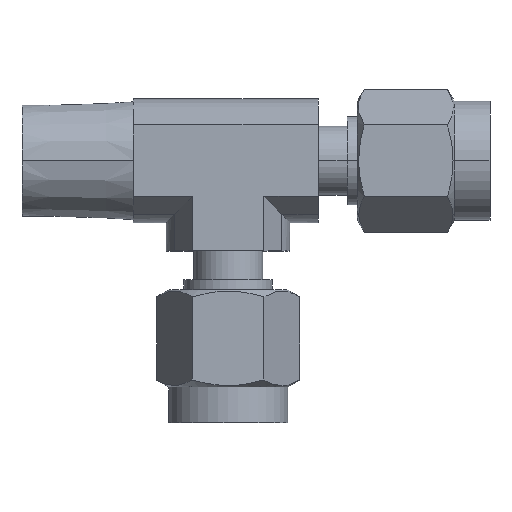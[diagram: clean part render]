
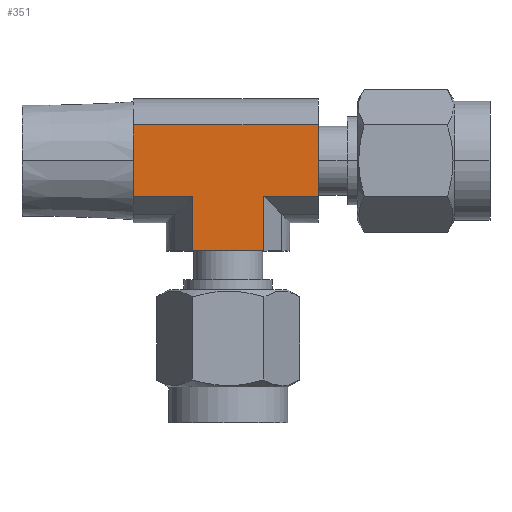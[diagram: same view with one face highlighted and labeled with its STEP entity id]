
A CAD part, top view. The second image highlights one B-rep face of the part: STEP entity #351.
In plain terms, the highlighted planar face has unit normal (0, 0, 1).
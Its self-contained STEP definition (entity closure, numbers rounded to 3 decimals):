
#55 = VERTEX_POINT ( 'NONE', #989 ) ;
#57 = VERTEX_POINT ( 'NONE', #988 ) ;
#126 = EDGE_CURVE ( 'NONE', #55, #57, #1095, .T. ) ;
#190 = VERTEX_POINT ( 'NONE', #1162 ) ;
#193 = EDGE_CURVE ( 'NONE', #190, #437, #1160, .T. ) ;
#250 = VERTEX_POINT ( 'NONE', #1391 ) ;
#255 = EDGE_CURVE ( 'NONE', #384, #250, #1386, .T. ) ;
#278 = EDGE_CURVE ( 'NONE', #381, #413, #1349, .T. ) ;
#293 = ORIENTED_EDGE ( 'NONE', *, *, #278, .T. ) ;
#294 = ORIENTED_EDGE ( 'NONE', *, *, #412, .F. ) ;
#326 = EDGE_LOOP ( 'NONE', ( #352, #353, #355, #356, #358, #359, #293, #294 ) ) ;
#351 = ADVANCED_FACE ( 'NONE', ( #1494 ), #1696, .F. ) ;
#352 = ORIENTED_EDGE ( 'NONE', *, *, #193, .F. ) ;
#353 = ORIENTED_EDGE ( 'NONE', *, *, #354, .F. ) ;
#354 = EDGE_CURVE ( 'NONE', #57, #190, #1677, .T. ) ;
#355 = ORIENTED_EDGE ( 'NONE', *, *, #126, .F. ) ;
#356 = ORIENTED_EDGE ( 'NONE', *, *, #357, .T. ) ;
#357 = EDGE_CURVE ( 'NONE', #55, #250, #1645, .T. ) ;
#358 = ORIENTED_EDGE ( 'NONE', *, *, #255, .F. ) ;
#359 = ORIENTED_EDGE ( 'NONE', *, *, #383, .F. ) ;
#381 = VERTEX_POINT ( 'NONE', #1579 ) ;
#383 = EDGE_CURVE ( 'NONE', #381, #384, #1578, .T. ) ;
#384 = VERTEX_POINT ( 'NONE', #1574 ) ;
#412 = EDGE_CURVE ( 'NONE', #437, #413, #1609, .T. ) ;
#413 = VERTEX_POINT ( 'NONE', #1605 ) ;
#437 = VERTEX_POINT ( 'NONE', #1666 ) ;
#988 = CARTESIAN_POINT ( 'NONE',  ( -3.204, -8.1, 5.55 ) ) ;
#989 = CARTESIAN_POINT ( 'NONE',  ( 3.204, -8.1, 5.55 ) ) ;
#1092 = DIRECTION ( 'NONE',  ( -1., 0., 0. ) ) ;
#1093 = VECTOR ( 'NONE', #1092, 1000. ) ;
#1094 = CARTESIAN_POINT ( 'NONE',  ( 3.204, -8.1, 5.55 ) ) ;
#1095 = LINE ( 'NONE', #1094, #1093 ) ;
#1157 = DIRECTION ( 'NONE',  ( -1., 0., 0. ) ) ;
#1158 = VECTOR ( 'NONE', #1157, 1000. ) ;
#1159 = CARTESIAN_POINT ( 'NONE',  ( 8.1, -3.204, 5.55 ) ) ;
#1160 = LINE ( 'NONE', #1159, #1158 ) ;
#1162 = CARTESIAN_POINT ( 'NONE',  ( -3.204, -3.204, 5.55 ) ) ;
#1346 = DIRECTION ( 'NONE',  ( -1., 0., 0. ) ) ;
#1347 = VECTOR ( 'NONE', #1346, 1000. ) ;
#1348 = CARTESIAN_POINT ( 'NONE',  ( 8.1, 3.204, 5.55 ) ) ;
#1349 = LINE ( 'NONE', #1348, #1347 ) ;
#1383 = DIRECTION ( 'NONE',  ( -1., 0., 0. ) ) ;
#1384 = VECTOR ( 'NONE', #1383, 1000. ) ;
#1385 = CARTESIAN_POINT ( 'NONE',  ( 8.1, -3.204, 5.55 ) ) ;
#1386 = LINE ( 'NONE', #1385, #1384 ) ;
#1391 = CARTESIAN_POINT ( 'NONE',  ( 3.204, -3.204, 5.55 ) ) ;
#1494 = FACE_OUTER_BOUND ( 'NONE', #326, .T. ) ;
#1540 = DIRECTION ( 'NONE',  ( 0., 1., 0. ) ) ;
#1574 = CARTESIAN_POINT ( 'NONE',  ( 8.1, -3.204, 5.55 ) ) ;
#1575 = DIRECTION ( 'NONE',  ( 0., -1., 0. ) ) ;
#1576 = VECTOR ( 'NONE', #1575, 1000. ) ;
#1577 = CARTESIAN_POINT ( 'NONE',  ( 8.1, 3.204, 5.55 ) ) ;
#1578 = LINE ( 'NONE', #1577, #1576 ) ;
#1579 = CARTESIAN_POINT ( 'NONE',  ( 8.1, 3.204, 5.55 ) ) ;
#1605 = CARTESIAN_POINT ( 'NONE',  ( -8.5, 3.204, 5.55 ) ) ;
#1606 = DIRECTION ( 'NONE',  ( 0., 1., 0. ) ) ;
#1607 = VECTOR ( 'NONE', #1606, 1000. ) ;
#1608 = CARTESIAN_POINT ( 'NONE',  ( -8.5, -3.204, 5.55 ) ) ;
#1609 = LINE ( 'NONE', #1608, #1607 ) ;
#1622 = CARTESIAN_POINT ( 'NONE',  ( 8.1, 3.204, 5.55 ) ) ;
#1642 = DIRECTION ( 'NONE',  ( 0., 1., 0. ) ) ;
#1643 = VECTOR ( 'NONE', #1642, 1000. ) ;
#1644 = CARTESIAN_POINT ( 'NONE',  ( 3.204, -8.1, 5.55 ) ) ;
#1645 = LINE ( 'NONE', #1644, #1643 ) ;
#1666 = CARTESIAN_POINT ( 'NONE',  ( -8.5, -3.204, 5.55 ) ) ;
#1675 = VECTOR ( 'NONE', #1688, 1000. ) ;
#1676 = CARTESIAN_POINT ( 'NONE',  ( -3.204, -8.1, 5.55 ) ) ;
#1677 = LINE ( 'NONE', #1676, #1675 ) ;
#1678 = DIRECTION ( 'NONE',  ( 0., 0., -1. ) ) ;
#1688 = DIRECTION ( 'NONE',  ( 0., 1., 0. ) ) ;
#1694 = AXIS2_PLACEMENT_3D ( 'NONE', #1622, #1678, #1540 ) ;
#1696 = PLANE ( 'NONE',  #1694 ) ;
